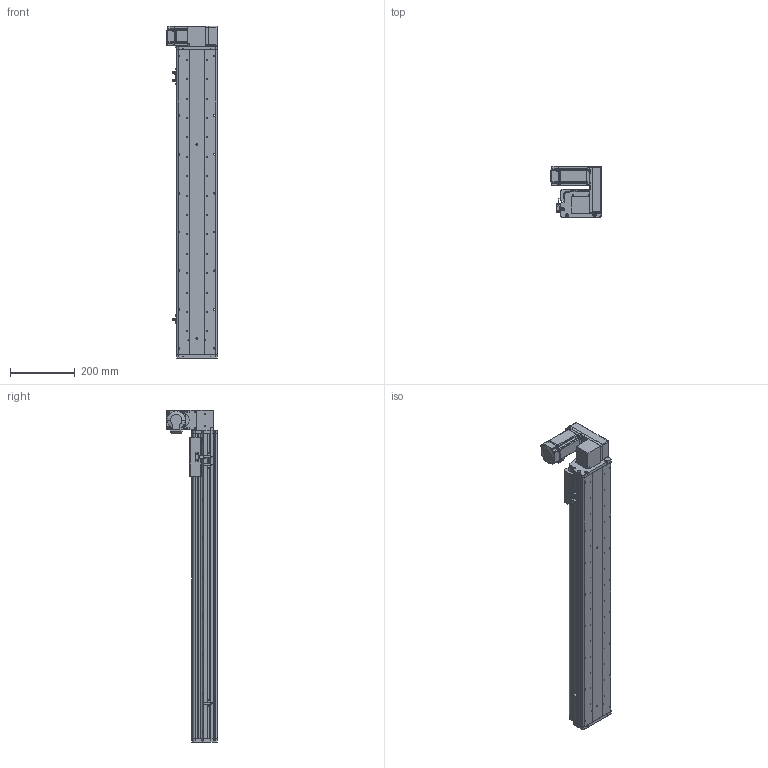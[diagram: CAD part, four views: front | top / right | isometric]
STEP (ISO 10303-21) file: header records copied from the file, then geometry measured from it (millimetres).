
FILE_DESCRIPTION (( 'STEP AP214' ), '1' );
FILE_NAME ('KSD125B-S750-MLU-CM.STEP', '2017-10-21T03:22:17', ( '微软用户' ), ( '微软中国' ), 'SwSTEP 2.0', 'SolidWorks 2014', '' );
FILE_SCHEMA (( 'AUTOMOTIVE_DESIGN' ));
Length unit declared in the file: millimetre
Products named in the file (17): HTPA30S3M150_A_H6_a佪裝蚚; HTPA30S3M150_A_H6_a萇儂蚚; 100宽马达安装板同步带左; KSD125模组750行程同步带-防尘盖; 125模组750行程同步带-底板; MHMD042G1CA_2_03; KSD125模组同步带-防撞垫2; 覜茼え68遵圉猾敕; U倰嫖萇假蚾璃; U倰嫖萇EEㄜSX672; KSD125模组同步带-防撞垫1; 前端板-125宽模组同步带; 125模组同步带-尾端板1; KSD125模组同步带-滑动座1; KSD125B-S750-MLU-CM; 100宽马达安装板连板上下折丝杆同步带; 悵誘欶奻狟殏
Assembly tree (20 placements, depth 2):
  KSD125B-S750-MLU-CM
    KSD125模组同步带-滑动座1
    125模组同步带-尾端板1
    前端板-125宽模组同步带
    KSD125模组同步带-防撞垫1
    U倰嫖萇EEㄜSX672  x3
    U倰嫖萇假蚾璃  x3
    覜茼え68遵圉猾敕
    KSD125模组同步带-防撞垫2
    MHMD042G1CA_2_03
    125模组750行程同步带-底板
    KSD125模组750行程同步带-防尘盖
    100宽马达安装板同步带左
    HTPA30S3M150_A_H6_a萇儂蚚
    HTPA30S3M150_A_H6_a佪裝蚚
    悵誘欶奻狟殏
    100宽马达安装板连板上下折丝杆同步带
Bounding box: 155 x 157.5 x 1027 mm (x, y, z)
Volume: 3259074.6 mm3; surface area: 1109836.1 mm2
Topology: 19 solids, 22 shells, 2275 faces, 6589 edges, 4354 vertices
Faces by surface type: cylinder 1424, plane 724, cone 105, bspline 22
Entity records: 80843 total; most frequent: CARTESIAN_POINT 15963, DIRECTION 12570, ORIENTED_EDGE 11698, EDGE_CURVE 5927, AXIS2_PLACEMENT_3D 4857, VERTEX_POINT 3946, VECTOR 2856, LINE 2856
